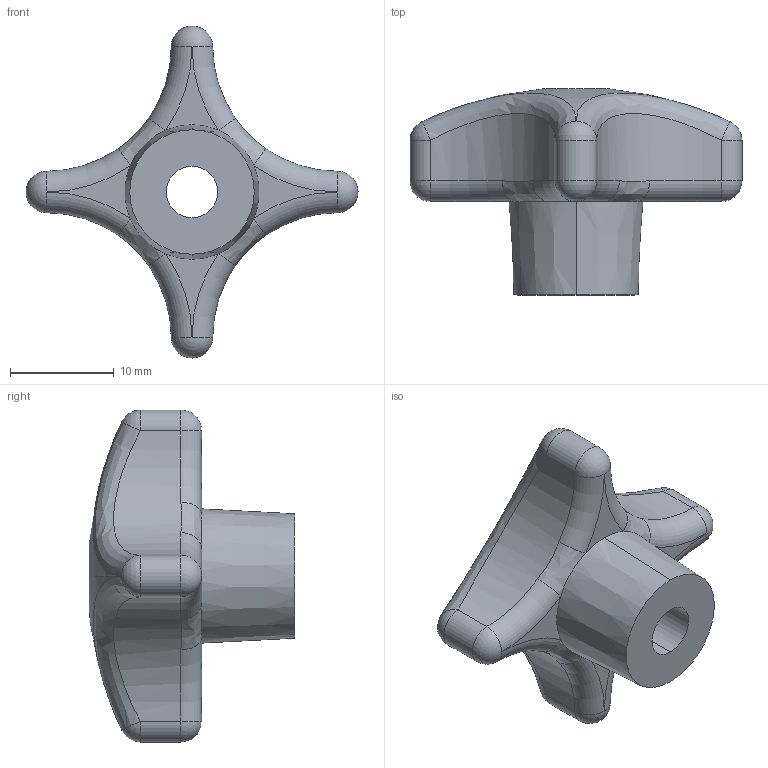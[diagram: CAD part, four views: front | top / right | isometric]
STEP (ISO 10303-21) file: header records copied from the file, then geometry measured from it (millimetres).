
FILE_DESCRIPTION (( 'STEP AP203' ), '1' );
FILE_NAME ('7000.W332.step', '2010-01-29T17:37:17', ( 'Wixroyd' ), ( 'Wixroyd' ), 'SwSTEP 2.0', 'SolidWorks 2009', '' );
FILE_SCHEMA (( 'CONFIG_CONTROL_DESIGN' ));
Length unit declared in the file: millimetre
Products named in the file (1): 7000.W332
Bounding box: 32 x 19.85 x 32 mm (x, y, z)
Volume: 3993.9 mm3; surface area: 2116.4 mm2
Topology: 1 solids, 1 shells, 47 faces, 105 edges, 56 vertices
Faces by surface type: cylinder 13, sphere 10, torus 8, bspline 8, plane 6, cone 2
Entity records: 4294 total; most frequent: CARTESIAN_POINT 3189, DIRECTION 243, ORIENTED_EDGE 202, AXIS2_PLACEMENT_3D 114, EDGE_CURVE 101, CIRCLE 74, VERTEX_POINT 56, EDGE_LOOP 49
